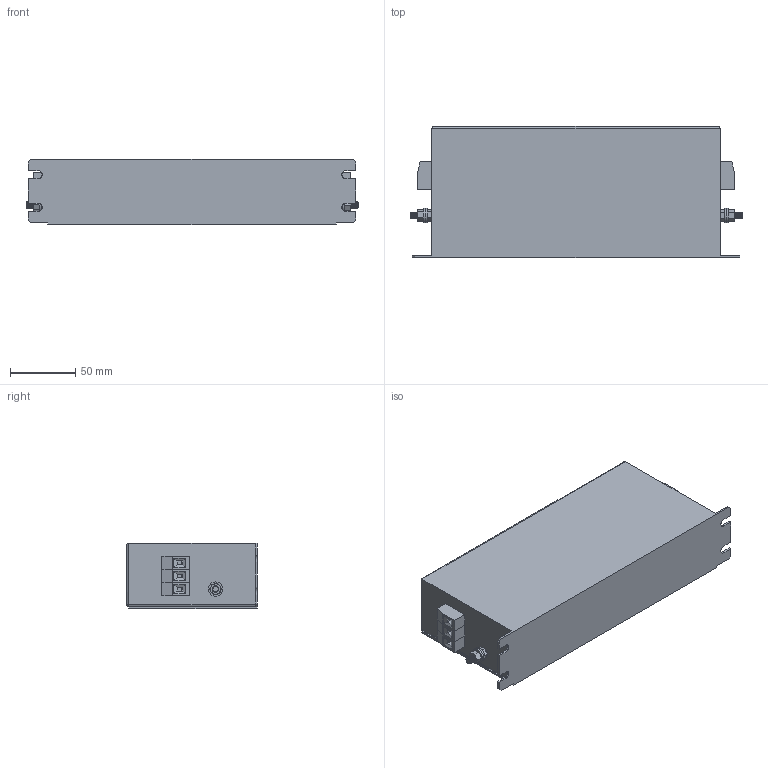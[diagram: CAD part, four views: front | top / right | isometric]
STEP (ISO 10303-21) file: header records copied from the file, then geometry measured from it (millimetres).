
FILE_DESCRIPTION (( 'STEP AP214' ), '1' );
FILE_NAME ('NF-KC-16-LKY.STEP', '2021-08-03T09:10:08', ( '' ), ( '' ), 'SwSTEP 2.0', 'SolidWorks 2021', '' );
FILE_SCHEMA (( 'AUTOMOTIVE_DESIGN' ));
Length unit declared in the file: millimetre
Products named in the file (8): hex nut style 1_am_B18.2.4.1M - Hex nut, Style 1,  M5 x 0.8 --D-N; 32-LKY case; VDFK4x3; M5x13 Earth post; NF-16-LKY; hex screw_am_B18.6.7M - M5 x 0.8 x 13 Indented HHMS --13S; flat washer narrow_am_B18.22M - Plain washer, 5 mm, narrow; VDFK-4
Assembly tree (12 placements, depth 3):
  NF-16-LKY
    32-LKY case
    VDFK4x3  x2
      VDFK-4
    M5x13 Earth post  x2
      hex screw_am_B18.6.7M - M5 x 0.8 x 13 Indented HHMS --13S
      flat washer narrow_am_B18.22M - Plain washer, 5 mm, narrow
      hex nut style 1_am_B18.2.4.1M - Hex nut, Style 1,  M5 x 0.8 --D-N
Bounding box: 253.6 x 100 x 50 mm (x, y, z)
Volume: 1078011.8 mm3; surface area: 109835.6 mm2
Topology: 15 solids, 15 shells, 591 faces, 1317 edges, 794 vertices
Faces by surface type: plane 275, cone 176, cylinder 138, bspline 2
Entity records: 7100 total; most frequent: CARTESIAN_POINT 1279, DIRECTION 1232, ORIENTED_EDGE 1100, EDGE_CURVE 550, AXIS2_PLACEMENT_3D 463, VERTEX_POINT 326, VECTOR 306, LINE 306
